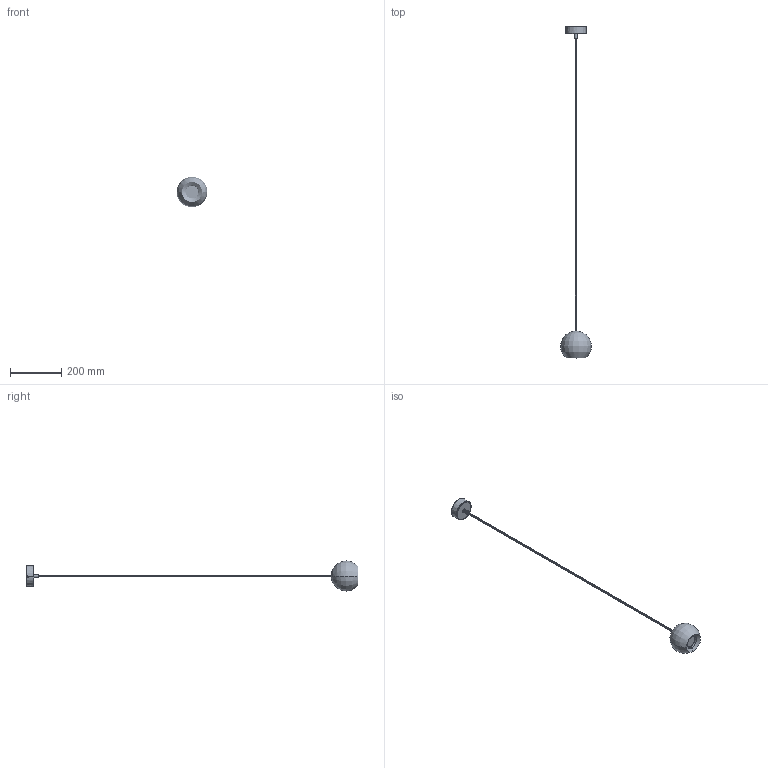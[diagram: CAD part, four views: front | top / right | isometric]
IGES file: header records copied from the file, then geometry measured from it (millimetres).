
Start section: SolidWorks IGES file using analytic representation for surfaces
Global section: file name: E:\3D lampy\Geometric\Geometric_9696.IGS; native system: SolidWorks 2016; preprocessor: SolidWorks 2016; author: Asia; date: 170428.113441; units: millimetre
Bounding box: 120 x 1300.74 x 118.18 mm (x, y, z)
Surface area: 137162.3 mm2 (no closed solid volume)
Topology: 0 solids, 0 shells, 645 faces, 9208 edges, 9190 vertices
Faces by surface type: bspline 356, revolution 289
